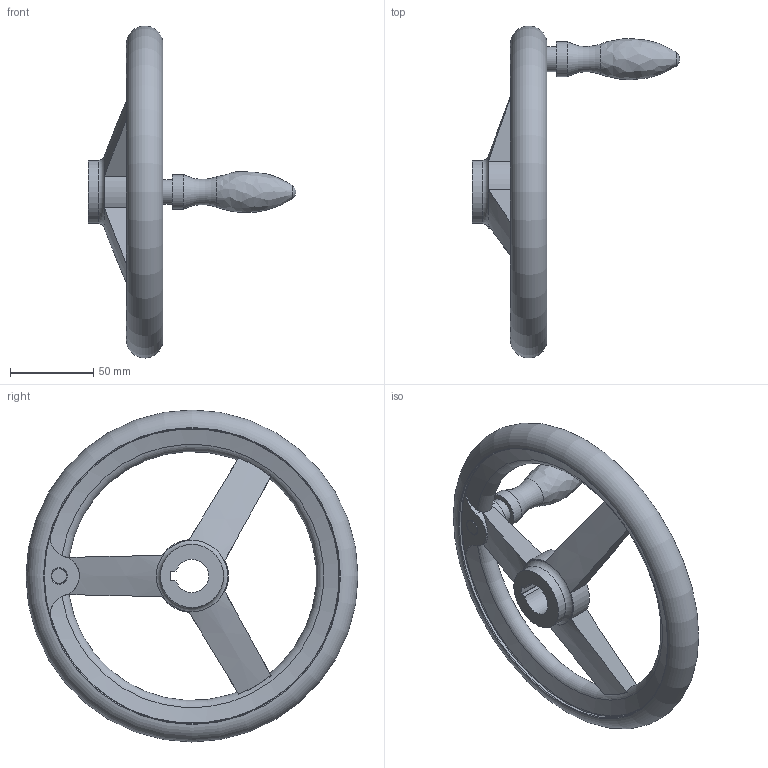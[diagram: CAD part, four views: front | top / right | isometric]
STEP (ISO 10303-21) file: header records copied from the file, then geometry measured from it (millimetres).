
FILE_DESCRIPTION( ( 'STEP AP203' ), '1' );
FILE_NAME( 'C:/Temp/Ganter_Step_05_03_2020/data/1_3/din_950/din_950_k/din_950_k_d/Handwheel DIN 950-GG-200-K20-D.stp', '2020-03-05T10:30:57', ( 'License CC BY-ND 4.0' ), ( 'CADENAS' ), ' ', 'PARTsolutions', ' ' );
FILE_SCHEMA( ( 'CONFIG_CONTROL_DESIGN' ) );
Length unit declared in the file: millimetre
Products named in the file (1): _Handwheel DIN 950-GG-200-K20-D
Bounding box: 125 x 199.99 x 199.99 mm (x, y, z)
Volume: 298614.4 mm3; surface area: 64208.2 mm2
Topology: 1 solids, 1 shells, 56 faces, 155 edges, 99 vertices
Faces by surface type: cylinder 18, torus 15, plane 15, cone 6, bspline 1, sphere 1
Full cylindrical faces by diameter (mm): 15 x1, 21 x1, 38 x2, 178 x2
Entity records: 2134 total; most frequent: CARTESIAN_POINT 811, ORIENTED_EDGE 258, DIRECTION 248, EDGE_CURVE 129, AXIS2_PLACEMENT_3D 111, VERTEX_POINT 95, EDGE_LOOP 82, FACE_OUTER_BOUND 71
